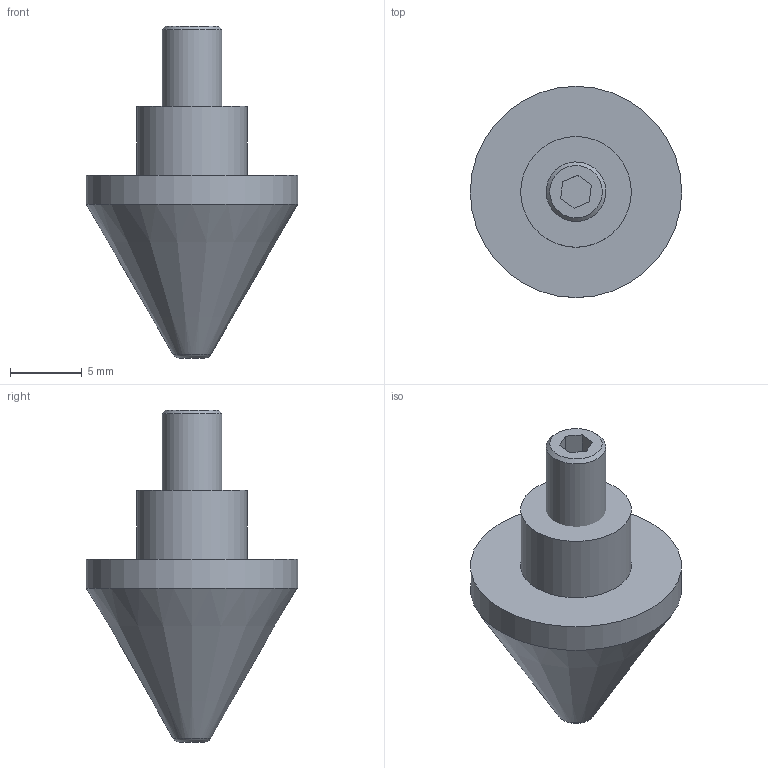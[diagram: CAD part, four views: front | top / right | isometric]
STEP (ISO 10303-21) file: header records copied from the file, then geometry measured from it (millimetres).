
FILE_DESCRIPTION(('STEP AP214'),'1');
FILE_NAME('CA.09.16.001.stp','2024-07-29T07:15:33',(' '),(' '),'Spatial InterOp 3D',' ',' ');
FILE_SCHEMA(('AUTOMOTIVE_DESIGN { 1 0 10303 214 1 1 1 1 }'));
Length unit declared in the file: millimetre
Products named in the file (3): CA.09.16.001; 09.16.001.02; 09.16.001.01
Assembly tree (2 placements, depth 2):
  CA.09.16.001
    09.16.001.02
    09.16.001.01
Bounding box: 14.7 x 14.7 x 23.1 mm (x, y, z)
Volume: 1335.4 mm3; surface area: 962.2 mm2
Topology: 2 solids, 2 shells, 22 faces, 43 edges, 27 vertices
Faces by surface type: plane 12, cylinder 5, cone 4, torus 1
Full cylindrical faces by diameter (mm): 3.454 x2, 4.15 x1, 7.7 x1, 14.7 x1
Entity records: 866 total; most frequent: DIRECTION 94, CARTESIAN_POINT 82, ORIENTED_EDGE 62, AXIS2_PLACEMENT_3D 38, EDGE_LOOP 34, EDGE_CURVE 31, FACE_OUTER_BOUND 28, VERTEX_POINT 26
